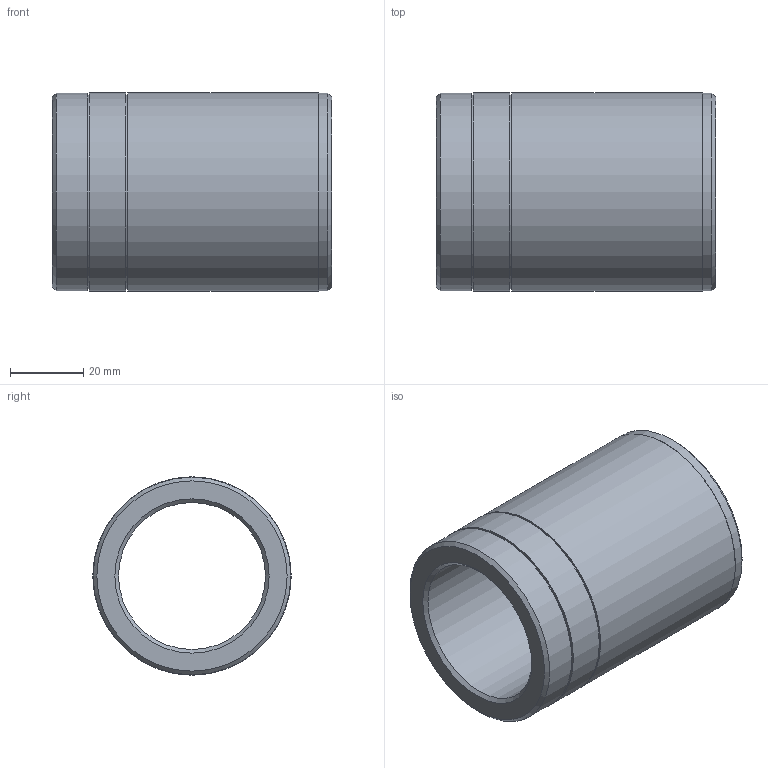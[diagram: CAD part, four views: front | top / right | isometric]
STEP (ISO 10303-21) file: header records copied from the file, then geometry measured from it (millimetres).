
FILE_DESCRIPTION(/* description */ ('Impex Ready, www.impex-ready.pl'),/* implementation_level */ '2;1');
FILE_NAME(/* name */ 'C:\Users\VIKKY\Nextcloud\SM\projekt 10 - części na stronę internetową\Pliki_3D_new\308 Tuleje BG06\308 BG06_STEP\BG06.040066.ipt.step',/* time_stamp */ '2021-12-21T17:35:44+01:00',/* author */ ('SM'),/* organization */ (''),/* preprocessor_version */ 'ST-DEVELOPER v18.1',/* originating_system */ 'Autodesk Inventor 2021',/* authorisation */ '');
FILE_SCHEMA (('AUTOMOTIVE_DESIGN { 1 0 10303 214 3 1 1 }'));
Length unit declared in the file: millimetre
Products named in the file (1): BG06.040066
Bounding box: 76 x 54 x 54 mm (x, y, z)
Volume: 77951.8 mm3; surface area: 24456.4 mm2
Topology: 1 solids, 1 shells, 18 faces, 33 edges, 22 vertices
Faces by surface type: plane 7, cylinder 7, cone 4
Full cylindrical faces by diameter (mm): 40 x1, 53 x2, 53.8 x2, 54 x2
Entity records: 540 total; most frequent: DIRECTION 93, CARTESIAN_POINT 74, ORIENTED_EDGE 66, AXIS2_PLACEMENT_3D 41, EDGE_CURVE 33, EDGE_LOOP 25, CIRCLE 22, VERTEX_POINT 22
